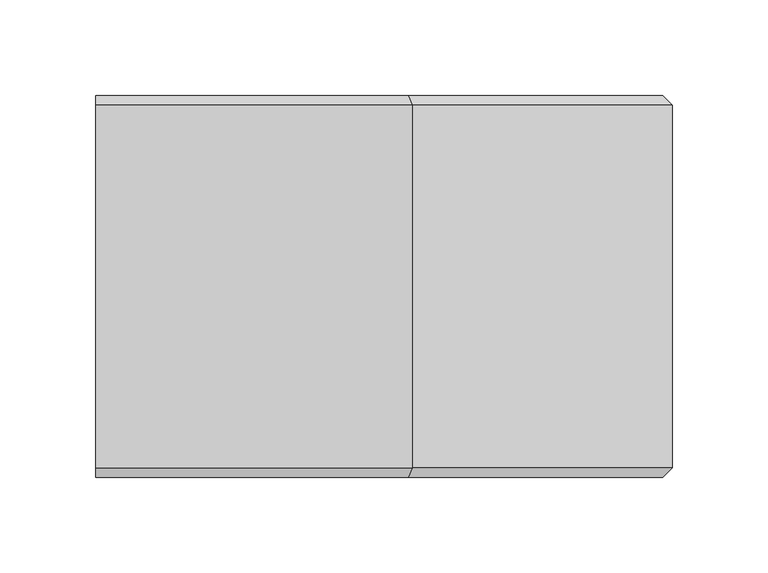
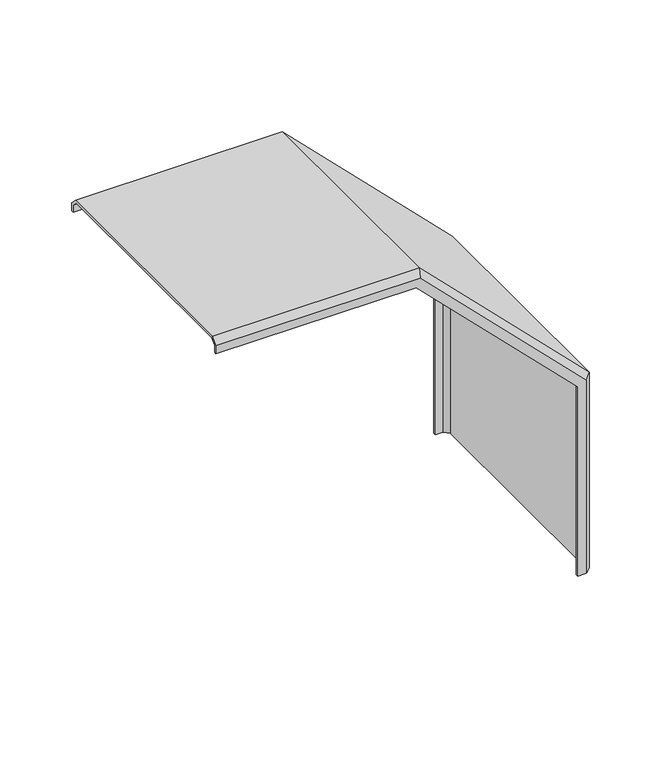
"""IFC4 building model written with IfcOpenShell, lengths in millimetres: proxy geometry, Cable_Tray_Cover_TCXBPE_Basorplast : Basorplast TCXBPE 60X200."""

from ifc_helpers import new_model, si_unit, origin, place, context, project, spatial, faceted_brep, source, transform, mapped, element, save


def generic_models_42cf7297(model_context):
    return source(origin(), model_context, "Body", "Brep", [
        faceted_brep([(0.0, -99.0, -10.0), (0.0, -101.0, -10.0), (0.0, -101.0, -3.8284271), (0.0, -104.8284271, 0.0), (0.0, -293.1715729, 0.0), (0.0, -297.0, -3.8284271), (0.0, -297.0, -10.0), (0.0, -299.0, -10.0), (0.0, -299.0, -3.0), (0.0, -294.0, 2.0), (0.0, -104.0, 2.0), (0.0, -99.0, -3.0), (290.0, -99.0, -300.0), (297.0, -99.0, -300.0), (302.0, -104.0, -300.0), (302.0, -294.0, -300.0), (297.0, -299.0, -300.0), (290.0, -299.0, -300.0), (290.0, -297.0, -300.0), (296.1715729, -297.0, -300.0), (300.0, -293.1715729, -300.0), (300.0, -104.8284271, -300.0), (296.1715729, -101.0, -300.0), (290.0, -101.0, -300.0), (160.7106444, -99.0, -10.0), (160.7106444, -101.0, -10.0), (290.0, -101.0, -139.2893556), (296.1715729, -101.0, -136.7330064), (163.2669936, -101.0, -3.8284271), (164.85278, -104.8284271, 0.0), (164.85278, -293.1715729, 0.0), (163.2669936, -297.0, -3.8284271), (296.1715729, -297.0, -136.7330064), (290.0, -297.0, -139.2893556), (160.7106444, -297.0, -10.0), (160.7106444, -299.0, -10.0), (290.0, -299.0, -139.2893556), (297.0, -299.0, -136.3898607), (163.6101393, -299.0, -3.0), (165.6812071, -294.0, 2.0), (165.6812071, -104.0, 2.0), (163.6101393, -99.0, -3.0), (297.0, -99.0, -136.3898607), (290.0, -99.0, -139.2893556), (300.0, -104.8284271, -135.14722), (300.0, -293.1715729, -135.14722), (302.0, -104.0, -134.3187929), (302.0, -294.0, -134.3187929)], [[[0, 1, 2, 3, 4, 5, 6, 7, 8, 9, 10, 11]], [[12, 13, 14, 15, 16, 17, 18, 19, 20, 21, 22, 23]], [[1, 0, 24, 25]], [[2, 1, 25, 26, 23, 22, 27, 28]], [[3, 2, 28, 29]], [[4, 3, 29, 30]], [[6, 5, 31, 32, 19, 18, 33, 34]], [[7, 6, 34, 35]], [[8, 7, 35, 36, 17, 16, 37, 38]], [[10, 9, 39, 40]], [[0, 11, 41, 42, 13, 12, 43, 24]], [[26, 43, 12, 23]], [[44, 27, 22, 21]], [[45, 44, 21, 20]], [[36, 33, 18, 17]], [[46, 47, 15, 14]], [[9, 8, 38, 39]], [[11, 10, 40, 41]], [[47, 37, 16, 15]], [[42, 46, 14, 13]], [[25, 24, 43, 26]], [[29, 28, 27, 44]], [[30, 29, 44, 45]], [[35, 34, 33, 36]], [[39, 38, 37, 47]], [[40, 39, 47, 46]], [[41, 40, 46, 42]], [[5, 4, 30, 31]], [[31, 30, 45, 32]], [[32, 45, 20, 19]]]),
    ])


if __name__ == "__main__":
    model = new_model("IFC4")
    model_context = context("Model", 3, world=origin())
    ifc_project = project(units=[si_unit("LENGTHUNIT", "METRE", prefix="MILLI")], contexts=[model_context])
    site = spatial("IfcSite", under=ifc_project)
    building = spatial("IfcBuilding", under=site)
    placement = place(None, origin())
    generic_models_shape = generic_models_42cf7297(model_context)
    element("IfcBuildingElementProxy", 1, Name="Cable_Tray_Cover_TCXBPE_Basorplast : Basorplast TCXBPE 60X200", ObjectType="Cable_Tray_Cover_TCXBPE_Basorplast : Basorplast TCXBPE 60X200", at=placement, inside=building, context=model_context, shape_type="MappedRepresentation", body=[
        mapped(generic_models_shape, transform((0.0, 0.0, 0.0), x_axis=(1.0, 0.0, 0.0), y_axis=(0.0, 1.0, 0.0), z_axis=(0.0, 0.0, 1.0))),
    ])
    save(model, "model.ifc")
